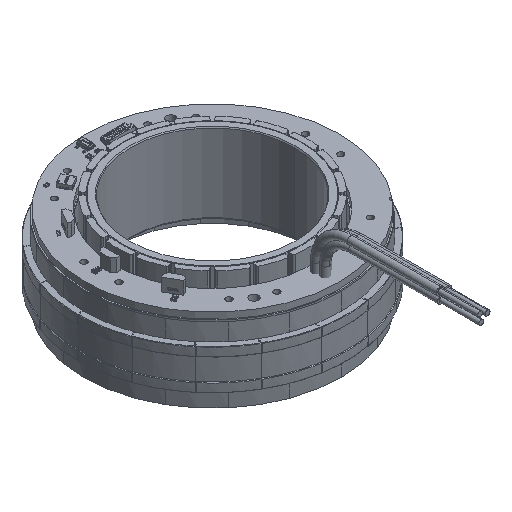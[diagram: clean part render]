
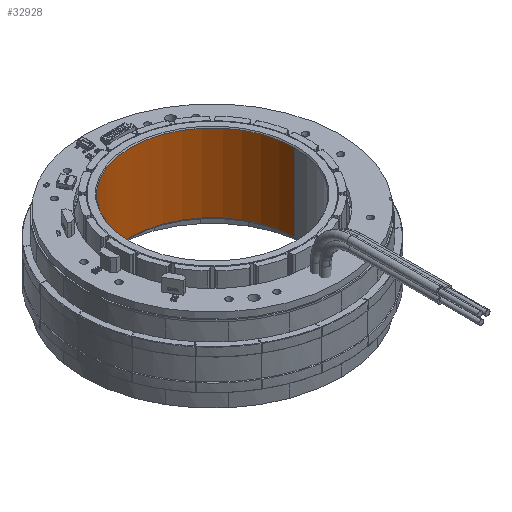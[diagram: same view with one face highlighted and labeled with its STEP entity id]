
A CAD part, isometric view. The second image highlights one B-rep face of the part: STEP entity #32928.
In plain terms, the highlighted cylindrical face has radius 21 mm (diameter 42 mm), a partial arc.
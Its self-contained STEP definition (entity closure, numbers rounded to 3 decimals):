
#11459 = CYLINDRICAL_SURFACE ( 'NONE', #86849, 21. ) ;
#11684 = VECTOR ( 'NONE', #152739, 1000. ) ;
#23558 = CARTESIAN_POINT ( 'NONE',  ( -21., 0., -5.45 ) ) ;
#32928 = ADVANCED_FACE ( 'NONE', ( #192826 ), #11459, .F. ) ;
#45915 = ORIENTED_EDGE ( 'NONE', *, *, #122846, .T. ) ;
#49180 = ORIENTED_EDGE ( 'NONE', *, *, #104212, .T. ) ;
#52544 = DIRECTION ( 'NONE',  ( -1., 0., 0. ) ) ;
#57470 = VERTEX_POINT ( 'NONE', #204230 ) ;
#65400 = AXIS2_PLACEMENT_3D ( 'NONE', #194447, #150782, #235493 ) ;
#81828 = VECTOR ( 'NONE', #123458, 1000. ) ;
#82936 = VERTEX_POINT ( 'NONE', #134766 ) ;
#85299 = VERTEX_POINT ( 'NONE', #23558 ) ;
#86694 = CARTESIAN_POINT ( 'NONE',  ( -21., 0., 14.75 ) ) ;
#86849 = AXIS2_PLACEMENT_3D ( 'NONE', #92197, #253711, #52544 ) ;
#92197 = CARTESIAN_POINT ( 'NONE',  ( 0., 0., 14.75 ) ) ;
#104212 = EDGE_CURVE ( 'NONE', #85299, #57470, #228350, .T. ) ;
#104318 = CARTESIAN_POINT ( 'NONE',  ( -21., 0., 14.45 ) ) ;
#106215 = CARTESIAN_POINT ( 'NONE',  ( 21., 0., 14.75 ) ) ;
#118035 = EDGE_CURVE ( 'NONE', #152012, #85299, #213709, .T. ) ;
#122846 = EDGE_CURVE ( 'NONE', #82936, #152012, #204844, .T. ) ;
#123458 = DIRECTION ( 'NONE',  ( 0., 0., -1. ) ) ;
#134766 = CARTESIAN_POINT ( 'NONE',  ( 21., 0., 14.45 ) ) ;
#150782 = DIRECTION ( 'NONE',  ( 0., 0., 1. ) ) ;
#152012 = VERTEX_POINT ( 'NONE', #104318 ) ;
#152739 = DIRECTION ( 'NONE',  ( 0., 0., -1. ) ) ;
#182764 = CARTESIAN_POINT ( 'NONE',  ( 0., 0., -5.45 ) ) ;
#192826 = FACE_OUTER_BOUND ( 'NONE', #248772, .T. ) ;
#194447 = CARTESIAN_POINT ( 'NONE',  ( 0., 0., 14.45 ) ) ;
#201787 = ORIENTED_EDGE ( 'NONE', *, *, #204163, .F. ) ;
#202935 = LINE ( 'NONE', #106215, #81828 ) ;
#204163 = EDGE_CURVE ( 'NONE', #82936, #57470, #202935, .T. ) ;
#204230 = CARTESIAN_POINT ( 'NONE',  ( 21., 0., -5.45 ) ) ;
#204844 = CIRCLE ( 'NONE', #65400, 21. ) ;
#206562 = DIRECTION ( 'NONE',  ( 1., 0., 0. ) ) ;
#207878 = DIRECTION ( 'NONE',  ( 0., 0., -1. ) ) ;
#213709 = LINE ( 'NONE', #86694, #11684 ) ;
#215693 = AXIS2_PLACEMENT_3D ( 'NONE', #182764, #207878, #206562 ) ;
#228350 = CIRCLE ( 'NONE', #215693, 21. ) ;
#235493 = DIRECTION ( 'NONE',  ( 1., 0., 0. ) ) ;
#243122 = ORIENTED_EDGE ( 'NONE', *, *, #118035, .T. ) ;
#248772 = EDGE_LOOP ( 'NONE', ( #201787, #45915, #243122, #49180 ) ) ;
#253711 = DIRECTION ( 'NONE',  ( 0., 0., -1. ) ) ;
